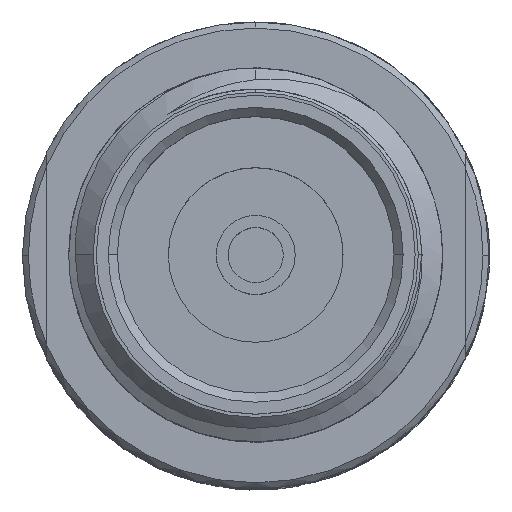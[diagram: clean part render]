
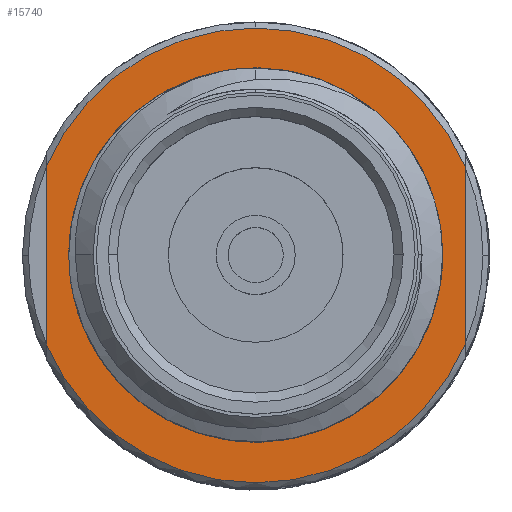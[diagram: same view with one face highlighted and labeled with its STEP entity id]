
A CAD part, top view. The second image highlights one B-rep face of the part: STEP entity #15740.
In plain terms, the highlighted planar face has unit normal (0, 0, 1).
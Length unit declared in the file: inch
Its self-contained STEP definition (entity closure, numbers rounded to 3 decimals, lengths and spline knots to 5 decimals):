
#11 = CIRCLE ( 'NONE', #12156, 0.14961 ) ;
#136 = LINE ( 'NONE', #8710, #14237 ) ;
#167 = ORIENTED_EDGE ( 'NONE', *, *, #3099, .F. ) ;
#247 = VERTEX_POINT ( 'NONE', #12079 ) ;
#613 = CARTESIAN_POINT ( 'NONE',  ( 0., 0.10492, 0.07876 ) ) ;
#654 = CARTESIAN_POINT ( 'NONE',  ( 0., 0., 0.07876 ) ) ;
#1049 = EDGE_LOOP ( 'NONE', ( #7625, #8372 ) ) ;
#1299 = AXIS2_PLACEMENT_3D ( 'NONE', #11358, #2797, #2712 ) ;
#1566 = CIRCLE ( 'NONE', #1299, 0.14961 ) ;
#2169 = ORIENTED_EDGE ( 'NONE', *, *, #2620, .F. ) ;
#2217 = CIRCLE ( 'NONE', #12294, 0.14961 ) ;
#2613 = DIRECTION ( 'NONE',  ( 0., 1., 0. ) ) ;
#2620 = EDGE_CURVE ( 'NONE', #14031, #11646, #11, .T. ) ;
#2712 = DIRECTION ( 'NONE',  ( 0., 1., 0. ) ) ;
#2751 = VERTEX_POINT ( 'NONE', #6986 ) ;
#2797 = DIRECTION ( 'NONE',  ( 0., 0., -1. ) ) ;
#2906 = FACE_OUTER_BOUND ( 'NONE', #10206, .T. ) ;
#3099 = EDGE_CURVE ( 'NONE', #11646, #8017, #1566, .T. ) ;
#3779 = AXIS2_PLACEMENT_3D ( 'NONE', #613, #9427, #8140 ) ;
#3788 = DIRECTION ( 'NONE',  ( 0., 1., 0. ) ) ;
#4354 = EDGE_CURVE ( 'NONE', #15301, #8017, #136, .T. ) ;
#4452 = DIRECTION ( 'NONE',  ( 0., 0., 1. ) ) ;
#5391 = CARTESIAN_POINT ( 'NONE',  ( -0.1378, 0.05826, 0.07876 ) ) ;
#5841 = CIRCLE ( 'NONE', #8168, 0.10492 ) ;
#5938 = DIRECTION ( 'NONE',  ( 0., 1., 0. ) ) ;
#6544 = FACE_BOUND ( 'NONE', #1049, .T. ) ;
#6600 = DIRECTION ( 'NONE',  ( 0., 0., -1. ) ) ;
#6986 = CARTESIAN_POINT ( 'NONE',  ( -0.1378, -0.05826, 0.07876 ) ) ;
#7142 = CARTESIAN_POINT ( 'NONE',  ( -0.10492, 0., 0.07876 ) ) ;
#7244 = EDGE_CURVE ( 'NONE', #15301, #2751, #2217, .T. ) ;
#7293 = ORIENTED_EDGE ( 'NONE', *, *, #7244, .F. ) ;
#7324 = ORIENTED_EDGE ( 'NONE', *, *, #4354, .T. ) ;
#7625 = ORIENTED_EDGE ( 'NONE', *, *, #11825, .F. ) ;
#8017 = VERTEX_POINT ( 'NONE', #8938 ) ;
#8129 = EDGE_CURVE ( 'NONE', #8176, #247, #5841, .T. ) ;
#8140 = DIRECTION ( 'NONE',  ( -1., 0., 0. ) ) ;
#8168 = AXIS2_PLACEMENT_3D ( 'NONE', #11754, #11600, #10457 ) ;
#8176 = VERTEX_POINT ( 'NONE', #7142 ) ;
#8218 = PLANE ( 'NONE',  #3779 ) ;
#8372 = ORIENTED_EDGE ( 'NONE', *, *, #8129, .F. ) ;
#8710 = CARTESIAN_POINT ( 'NONE',  ( 0.1378, 0.15354, 0.07876 ) ) ;
#8938 = CARTESIAN_POINT ( 'NONE',  ( 0.1378, 0.05826, 0.07876 ) ) ;
#9326 = CARTESIAN_POINT ( 'NONE',  ( 0., 0., 0.07876 ) ) ;
#9427 = DIRECTION ( 'NONE',  ( 0., 0., -1. ) ) ;
#9641 = CIRCLE ( 'NONE', #11962, 0.10492 ) ;
#10099 = LINE ( 'NONE', #11390, #14830 ) ;
#10206 = EDGE_LOOP ( 'NONE', ( #14154, #7293, #7324, #167, #2169 ) ) ;
#10457 = DIRECTION ( 'NONE',  ( 1., 0., 0. ) ) ;
#10597 = DIRECTION ( 'NONE',  ( 1., 0., 0. ) ) ;
#11100 = CARTESIAN_POINT ( 'NONE',  ( 0., 0., 0.07876 ) ) ;
#11358 = CARTESIAN_POINT ( 'NONE',  ( 0., 0., 0.07876 ) ) ;
#11390 = CARTESIAN_POINT ( 'NONE',  ( -0.1378, 0.15354, 0.07876 ) ) ;
#11600 = DIRECTION ( 'NONE',  ( 0., 0., 1. ) ) ;
#11646 = VERTEX_POINT ( 'NONE', #14468 ) ;
#11754 = CARTESIAN_POINT ( 'NONE',  ( 0., 0., 0.07876 ) ) ;
#11825 = EDGE_CURVE ( 'NONE', #247, #8176, #9641, .T. ) ;
#11962 = AXIS2_PLACEMENT_3D ( 'NONE', #654, #4452, #10597 ) ;
#12079 = CARTESIAN_POINT ( 'NONE',  ( 0.10492, 0., 0.07876 ) ) ;
#12156 = AXIS2_PLACEMENT_3D ( 'NONE', #9326, #6600, #5938 ) ;
#12294 = AXIS2_PLACEMENT_3D ( 'NONE', #11100, #13523, #2613 ) ;
#12567 = CARTESIAN_POINT ( 'NONE',  ( 0.1378, -0.05826, 0.07876 ) ) ;
#12610 = DIRECTION ( 'NONE',  ( 0., -1., 0. ) ) ;
#13523 = DIRECTION ( 'NONE',  ( 0., 0., -1. ) ) ;
#13697 = EDGE_CURVE ( 'NONE', #14031, #2751, #10099, .T. ) ;
#14031 = VERTEX_POINT ( 'NONE', #5391 ) ;
#14154 = ORIENTED_EDGE ( 'NONE', *, *, #13697, .T. ) ;
#14237 = VECTOR ( 'NONE', #3788, 39.37008 ) ;
#14468 = CARTESIAN_POINT ( 'NONE',  ( 0., 0.14961, 0.07876 ) ) ;
#14830 = VECTOR ( 'NONE', #12610, 39.37008 ) ;
#15301 = VERTEX_POINT ( 'NONE', #12567 ) ;
#15740 = ADVANCED_FACE ( 'NONE', ( #6544, #2906 ), #8218, .F. ) ;
